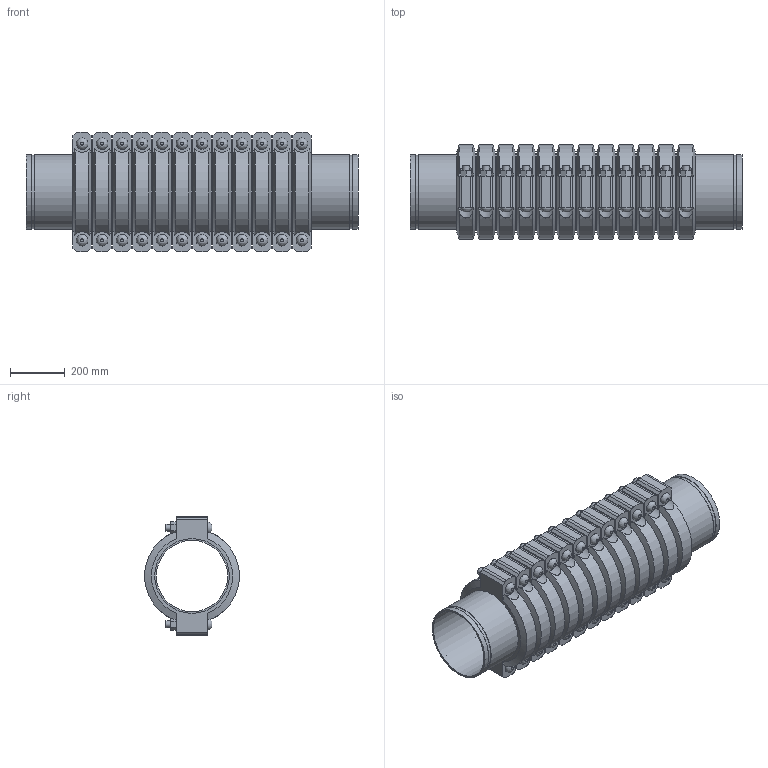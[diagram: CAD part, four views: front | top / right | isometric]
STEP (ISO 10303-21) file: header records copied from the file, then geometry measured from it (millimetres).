
FILE_DESCRIPTION(/* description */ ('VIC SS EXPANSION JOINT 12 COUPLINGS NEUTRAL STYLE 155P (OGS) (POTABLE WATER) ','CAx-IF Rec.Pracs.---Representation and Presentation of Product Manufacturing Information (PMI)---4.0---2014-10-13'),/* implementation_level */ '2;1');
FILE_NAME(/* name */ 'C:\Users\kkamble\AppData\Roaming\Autodesk\ApplicationPlugins\Victaulic.Temp\A871\Victaulic_SS_Expansion Joint_Neutral_12 Couplings_Style 155P (OGS)-Potable Water_12 Coup_Neut_10 (250).stp',/* time_stamp */ '2021-07-16T16:30:06+05:00',/* author */ ('kkamble'),/* organization */ ('Victaulic'),/* preprocessor_version */ 'ST-DEVELOPER v17.2',/* originating_system */ 'Autodesk Inventor 2019',/* authorisation */ '');
FILE_SCHEMA (('AP242_MANAGED_MODEL_BASED_3D_ENGINEERING_MIM_LF { 1 0 10303 442 1 1 4 }'));
Length unit declared in the file: inch
Products named in the file (4): 155P-10.0; Nipple-10.0; Nipple-10.0_1; 077-10.0
Assembly tree (25 placements, depth 2):
  155P-10.0
    Nipple-10.0  x2
    Nipple-10.0_1  x11
    077-10.0  x12
Bounding box: 1212.85 x 344.9 x 435.1 mm (x, y, z)
Volume: 40790441 mm3; surface area: 5569961.6 mm2
Topology: 25 solids, 49 shells, 888 faces, 2130 edges, 1488 vertices
Faces by surface type: plane 510, cylinder 306, cone 48, bspline 24
Full cylindrical faces by diameter (mm): 25.4 x48, 27.432 x24, 260.35 x13, 264.16 x12, 268.275 x26, 273.05 x63
Entity records: 3185 total; most frequent: CARTESIAN_POINT 689, DIRECTION 505, ORIENTED_EDGE 410, AXIS2_PLACEMENT_3D 208, EDGE_CURVE 205, VERTEX_POINT 146, EDGE_LOOP 111, CIRCLE 96
